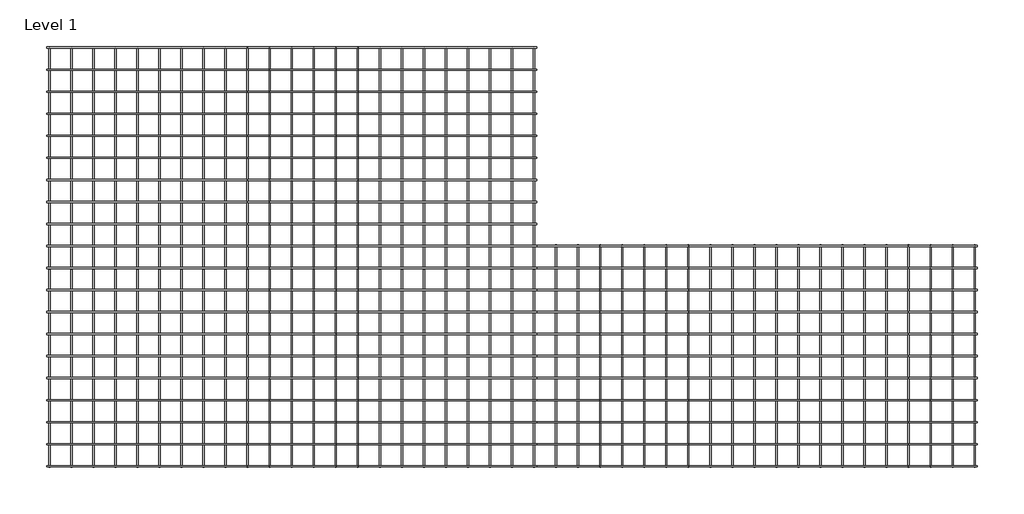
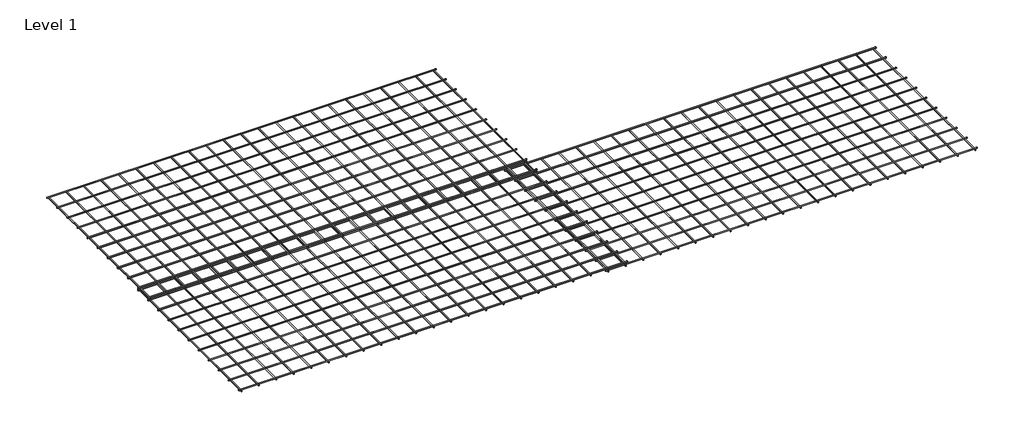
# One storey: 3 proxies.
"""IFC4 building model written with IfcOpenShell, lengths in millimetres."""

from ifc_helpers import new_model, si_unit, origin, place, context, project, spatial, transform, mapped, element, save
from components import united_steel_ductile_se62_small_mesh_01_united_steel_ductile_c7d32ac2, united_steel_ductile_se62_small_mesh_united_steel_ductile_7dd08e2a

model = new_model("IFC4")

# Units and contexts
model_context = context("Model", 3, world=origin())
ifc_project = project(units=[si_unit("LENGTHUNIT", "METRE", prefix="MILLI")], contexts=[model_context])

# Site, building, storey
site = spatial("IfcSite", under=ifc_project)
building = spatial("IfcBuilding", under=site)
storey = spatial("IfcBuildingStorey", under=building, Name="Level 1", Elevation=0.0)

# Proxies
placement = place(None, origin())
united_steel_ductile_se62_small_mesh_01_united_steel_ductile_shape = united_steel_ductile_se62_small_mesh_01_united_steel_ductile_c7d32ac2(model_context)
element("IfcBuildingElementProxy", 1, Name="United Steel Ductile SE62 Small Mesh 01 : United Steel Ductile SE62 Small Mesh 01", ObjectType="United Steel Ductile SE62 Small Mesh 01 : United Steel Ductile SE62 Small Mesh 01", at=placement, inside=storey, context=model_context, shape_type="MappedRepresentation", body=[
    mapped(united_steel_ductile_se62_small_mesh_01_united_steel_ductile_shape, transform((8872.9798501, 2147.1892393, 11.6275499), x_axis=(1.0, 0.0, 0.0), y_axis=(0.0, 1.0, 0.0), z_axis=(0.0, 0.0, 1.0))),
])
united_steel_ductile_se62_small_mesh_united_steel_ductile_shape = united_steel_ductile_se62_small_mesh_united_steel_ductile_7dd08e2a(model_context)
element("IfcBuildingElementProxy", 2, Name="United Steel Ductile SE62 Small Mesh : United Steel Ductile SE62 Small Mesh", ObjectType="United Steel Ductile SE62 Small Mesh : United Steel Ductile SE62 Small Mesh", at=placement, inside=storey, context=model_context, shape_type="MappedRepresentation", body=[
    mapped(united_steel_ductile_se62_small_mesh_united_steel_ductile_shape, transform((4872.8856589, 3947.0425638, 78.1274619), x_axis=(1.0, 0.0, 0.0), y_axis=(0.0, 1.0, 0.0), z_axis=(0.0, 0.0, 1.0))),
])
element("IfcBuildingElementProxy", 3, Name="United Steel Ductile SE62 Small Mesh : United Steel Ductile SE62 Small Mesh", ObjectType="United Steel Ductile SE62 Small Mesh : United Steel Ductile SE62 Small Mesh", at=placement, inside=storey, context=model_context, shape_type="MappedRepresentation", body=[
    mapped(united_steel_ductile_se62_small_mesh_united_steel_ductile_shape, transform((4872.8801261, 2147.1926515, 53.8503188), x_axis=(1.0, 0.0, 0.0), y_axis=(0.0, 1.0, 0.0), z_axis=(0.0, 0.0, 1.0))),
])

save(model, "model.ifc")
